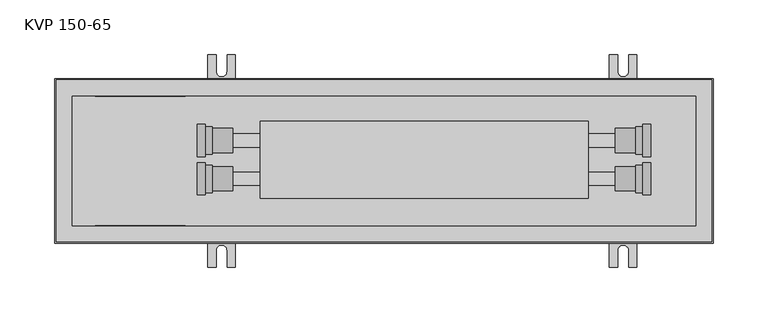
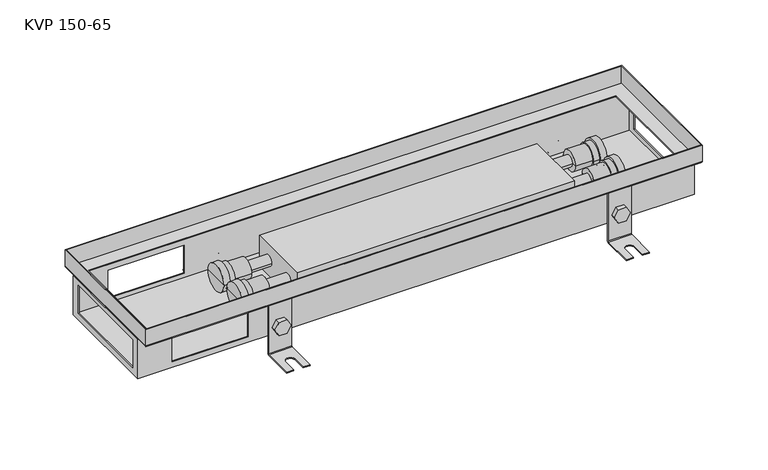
"""IFC4 building model written with IfcOpenShell, lengths in millimetres: proxy geometry, TECHNO_Конвектор встраиваемый_Power_KVP_150_65-85-105 : KVP 150-65."""

from ifc_helpers import new_model, si_unit, point, frame, frame_2d, origin, place, context, project, spatial, polyline, circle_curve, ellipse_curve, trimmed, segment, composite_curve, outline, extrude, faceted_brep, source, transform, mapped, element, save
from ifc_brep_helpers import plane_surface, cylinder_surface, revolved_surface, advanced_brep


def kvp_150_65_a3dba4b2(model_context):
    return source(origin(), model_context, "Body", "SolidModel", [
        extrude(outline(composite_curve([segment(trimmed(circle_curve(frame_2d((-55.5, 518.0)), 7.5), [point((-55.5, 510.5))], [point((-55.5, 525.5))], False, "CARTESIAN"), True, "CONTINUOUS"), segment(trimmed(circle_curve(frame_2d((-55.5, 518.0)), 7.5), [point((-55.5, 525.5))], [point((-55.5, 510.5))], False, "CARTESIAN"), True, "CONTINUOUS")], self_intersect=False)), frame((0.0, 60.2, 0.0), z_axis=(0.0, 1.0, 0.0), x_axis=(0.0, 0.0, 1.0)), (0.0, 0.0, 1.0), 1.5),
        extrude(outline(polyline([(-55.5, 509.339746), (-63.0, 513.669873), (-63.0, 522.330127), (-55.5, 526.660254), (-48.0, 522.330127), (-48.0, 513.669873), (-55.5, 509.339746)])), frame((0.0, 62.9, 0.0), z_axis=(0.0, 1.0, 0.0), x_axis=(0.0, 0.0, 1.0)), (0.0, 0.0, 1.0), 5.1),
        advanced_brep(
        [(530.5, 62.9, -20.5), (530.5, 61.7, -20.5), (530.5, 61.7, -83.5), (530.5, 63.7, -85.5), (530.5, 96.7, -85.5), (530.5, 96.7, -84.3), (530.5, 63.7, -84.3), (530.5, 62.9, -83.5), (505.5, 62.9, -20.5), (505.5, 62.9, -83.5), (505.5, 63.7, -84.3), (505.5, 96.7, -84.3), (505.5, 96.7, -85.5), (505.5, 63.7, -85.5), (505.5, 61.7, -83.5), (505.5, 61.7, -20.5), (523.0, 96.7, -84.3), (523.0, 81.7, -84.3), (513.0, 81.7, -84.3), (513.0, 96.7, -84.3), (513.0, 96.7, -85.5), (523.0, 96.7, -85.5), (513.0, 81.7, -85.5), (523.0, 81.7, -85.5)],
        [
            (0, 1),
            (1, 2),
            (2, 3, circle_curve(frame((530.5, 63.7, -83.5), z_axis=(1.0, 0.0, 0.0), x_axis=(0.0, 1.0, 0.0)), 2.0)),
            (3, 4),
            (4, 5),
            (5, 6),
            (6, 7, circle_curve(frame((530.5, 63.7, -83.5), z_axis=(-1.0, 0.0, 0.0), x_axis=(0.0, 1.0, 0.0)), 0.8)),
            (7, 0),
            (8, 9),
            (9, 10, circle_curve(frame((505.5, 63.7, -83.5), z_axis=(1.0, 0.0, 0.0), x_axis=(0.0, 1.0, 0.0)), 0.8)),
            (10, 11),
            (11, 12),
            (12, 13),
            (13, 14, circle_curve(frame((505.5, 63.7, -83.5), z_axis=(-1.0, 0.0, 0.0), x_axis=(0.0, 1.0, 0.0)), 2.0)),
            (14, 15),
            (15, 8),
            (7, 9),
            (8, 0),
            (6, 10),
            (5, 16),
            (16, 17),
            (17, 18, circle_curve(frame((518.0, 81.7, -84.3), z_axis=(0.0, 0.0, -1.0), x_axis=(1.0, 0.0, 0.0)), 5.0)),
            (18, 19),
            (19, 11),
            (19, 20),
            (20, 12),
            (4, 21),
            (21, 16),
            (3, 13),
            (20, 22),
            (22, 23, circle_curve(frame((518.0, 81.7, -85.5), z_axis=(0.0, 0.0, 1.0), x_axis=(1.0, 0.0, 0.0)), 5.0)),
            (23, 21),
            (2, 14),
            (1, 15),
            (18, 22),
            (23, 17),
        ],
        [
            plane_surface(frame((530.5, 62.9, -20.5), z_axis=(1.0, 0.0, 0.0), x_axis=(0.0, 0.0, -1.0))),
            plane_surface(frame((505.5, 62.9, -20.5), z_axis=(-1.0, 0.0, 0.0), x_axis=(0.0, 0.0, 1.0))),
            plane_surface(frame((530.5, 62.9, -20.5), z_axis=(0.0, 1.0, 0.0), x_axis=(-1.0, 0.0, 0.0))),
            revolved_surface(polyline([(505.5, 64.5, -83.5), (530.5, 64.5, -83.5)]), (505.5, 63.7, -83.5), (-1.0, 0.0, 0.0)),
            plane_surface(frame((530.5, 63.7, -84.3), z_axis=(0.0, 0.0, 1.0), x_axis=(-1.0, 0.0, 0.0))),
            plane_surface(frame((530.5, 96.7, -84.3), z_axis=(0.0, 1.0, 0.0), x_axis=(-1.0, 0.0, 0.0))),
            plane_surface(frame((530.5, 96.7, -85.5), z_axis=(0.0, 0.0, -1.0), x_axis=(-1.0, 0.0, 0.0))),
            cylinder_surface(frame((505.5, 63.7, -83.5), z_axis=(1.0, 0.0, 0.0), x_axis=(0.0, 1.0, 0.0)), 2.0),
            plane_surface(frame((530.5, 61.7, -83.5), z_axis=(0.0, -1.0, 0.0), x_axis=(-1.0, 0.0, 0.0))),
            plane_surface(frame((530.5, 61.7, -20.5), z_axis=(0.0, 0.0, 1.0), x_axis=(-1.0, 0.0, 0.0))),
            plane_surface(frame((513.0, 81.7, -84.3), z_axis=(1.0, 0.0, 0.0), x_axis=(0.0, 0.0, -1.0))),
            plane_surface(frame((523.0, 96.7, -84.3), z_axis=(-1.0, 0.0, 0.0), x_axis=(0.0, 0.0, -1.0))),
            revolved_surface(polyline([(523.0, 81.7, -84.3), (523.0, 81.7, -85.5)]), (518.0, 81.7, -85.5), (0.0, 0.0, 1.0)),
        ],
        [
            (0, [[1, 2, 3, 4, 5, 6, 7, 8]]),
            (1, [[9, 10, 11, 12, 13, 14, 15, 16]]),
            (2, [[17, -9, 18, -8]]),
            (3, [[19, -10, -17, -7]]),
            (4, [[20, 21, 22, 23, 24, -11, -19, -6]]),
            (5, [[-24, 25, 26, -12]]),
            (5, [[27, 28, -20, -5]]),
            (6, [[29, -13, -26, 30, 31, 32, -27, -4]]),
            (7, [[33, -14, -29, -3]]),
            (8, [[34, -15, -33, -2]]),
            (9, [[-18, -16, -34, -1]]),
            (10, [[-30, -25, -23, 35]]),
            (11, [[-21, -28, -32, 36]]),
            (12, [[-22, -36, -31, -35]]),
        ],
    ),
        extrude(outline(composite_curve([segment(trimmed(circle_curve(frame_2d((-55.5, 518.0)), 7.5), [point((-55.5, 510.5))], [point((-55.5, 525.5))], False, "CARTESIAN"), True, "CONTINUOUS"), segment(trimmed(circle_curve(frame_2d((-55.5, 518.0)), 7.5), [point((-55.5, 525.5))], [point((-55.5, 510.5))], False, "CARTESIAN"), True, "CONTINUOUS")], self_intersect=False)), frame((0.0, -61.7, 0.0), z_axis=(0.0, 1.0, 0.0), x_axis=(0.0, 0.0, 1.0)), (0.0, 0.0, 1.0), 1.5),
        extrude(outline(polyline([(-55.5, 509.339746), (-63.0, 513.669873), (-63.0, 522.330127), (-55.5, 526.660254), (-48.0, 522.330127), (-48.0, 513.669873), (-55.5, 509.339746)])), frame((0.0, -68.0, 0.0), z_axis=(0.0, 1.0, 0.0), x_axis=(0.0, 0.0, 1.0)), (0.0, 0.0, 1.0), 5.1),
        advanced_brep(
        [(530.5, -62.9, -20.5), (530.5, -62.9, -83.5), (530.5, -63.7, -84.3), (530.5, -96.7, -84.3), (530.5, -96.7, -85.5), (530.5, -63.7, -85.5), (530.5, -61.7, -83.5), (530.5, -61.7, -20.5), (505.5, -62.9, -20.5), (505.5, -61.7, -20.5), (505.5, -61.7, -83.5), (505.5, -63.7, -85.5), (505.5, -96.7, -85.5), (505.5, -96.7, -84.3), (505.5, -63.7, -84.3), (505.5, -62.9, -83.5), (513.0, -96.7, -84.3), (513.0, -81.7, -84.3), (523.0, -81.7, -84.3), (523.0, -96.7, -84.3), (523.0, -96.7, -85.5), (513.0, -96.7, -85.5), (523.0, -81.7, -85.5), (513.0, -81.7, -85.5)],
        [
            (0, 1),
            (1, 2, circle_curve(frame((530.5, -63.7, -83.5), z_axis=(-1.0, 0.0, 0.0), x_axis=(0.0, -1.0, 0.0)), 0.8)),
            (2, 3),
            (3, 4),
            (4, 5),
            (5, 6, circle_curve(frame((530.5, -63.7, -83.5), z_axis=(1.0, 0.0, 0.0), x_axis=(0.0, -1.0, 0.0)), 2.0)),
            (6, 7),
            (7, 0),
            (8, 9),
            (9, 10),
            (10, 11, circle_curve(frame((505.5, -63.7, -83.5), z_axis=(-1.0, 0.0, 0.0), x_axis=(0.0, -1.0, 0.0)), 2.0)),
            (11, 12),
            (12, 13),
            (13, 14),
            (14, 15, circle_curve(frame((505.5, -63.7, -83.5), z_axis=(1.0, 0.0, 0.0), x_axis=(0.0, -1.0, 0.0)), 0.8)),
            (15, 8),
            (0, 8),
            (15, 1),
            (14, 2),
            (13, 16),
            (16, 17),
            (17, 18, circle_curve(frame((518.0, -81.7, -84.3), z_axis=(0.0, 0.0, -1.0), x_axis=(1.0, 0.0, 0.0)), 5.0)),
            (18, 19),
            (19, 3),
            (19, 20),
            (20, 4),
            (12, 21),
            (21, 16),
            (20, 22),
            (22, 23, circle_curve(frame((518.0, -81.7, -85.5), z_axis=(0.0, 0.0, 1.0), x_axis=(1.0, 0.0, 0.0)), 5.0)),
            (23, 21),
            (11, 5),
            (10, 6),
            (9, 7),
            (23, 17),
            (18, 22),
        ],
        [
            plane_surface(frame((530.5, -62.9, -20.5), z_axis=(1.0, 0.0, 0.0), x_axis=(0.0, 0.0, -1.0))),
            plane_surface(frame((505.5, -62.9, -20.5), z_axis=(-1.0, 0.0, 0.0), x_axis=(0.0, 0.0, 1.0))),
            plane_surface(frame((530.5, -62.9, -20.5), z_axis=(0.0, -1.0, 0.0), x_axis=(-1.0, 0.0, 0.0))),
            revolved_surface(polyline([(505.5, -64.5, -83.5), (530.5, -64.5, -83.5)]), (505.5, -63.7, -83.5), (-1.0, 0.0, 0.0)),
            plane_surface(frame((530.5, -63.7, -84.3), z_axis=(0.0, 0.0, 1.0), x_axis=(-1.0, 0.0, 0.0))),
            plane_surface(frame((530.5, -96.7, -84.3), z_axis=(0.0, -1.0, 0.0), x_axis=(-1.0, 0.0, 0.0))),
            plane_surface(frame((530.5, -96.7, -85.5), z_axis=(0.0, 0.0, -1.0), x_axis=(-1.0, 0.0, 0.0))),
            cylinder_surface(frame((505.5, -63.7, -83.5), z_axis=(1.0, 0.0, 0.0), x_axis=(0.0, -1.0, 0.0)), 2.0),
            plane_surface(frame((530.5, -61.7, -83.5), z_axis=(0.0, 1.0, 0.0), x_axis=(-1.0, 0.0, 0.0))),
            plane_surface(frame((530.5, -61.7, -20.5), z_axis=(0.0, 0.0, 1.0), x_axis=(-1.0, 0.0, 0.0))),
            plane_surface(frame((513.0, -81.7, -84.3), z_axis=(1.0, 0.0, 0.0), x_axis=(0.0, 0.0, -1.0))),
            plane_surface(frame((523.0, -96.7, -84.3), z_axis=(-1.0, 0.0, 0.0), x_axis=(0.0, 0.0, -1.0))),
            revolved_surface(polyline([(523.0, -81.7, -84.3), (523.0, -81.7, -85.5)]), (518.0, -81.7, -85.5), (0.0, 0.0, 1.0)),
        ],
        [
            (0, [[1, 2, 3, 4, 5, 6, 7, 8]]),
            (1, [[9, 10, 11, 12, 13, 14, 15, 16]]),
            (2, [[-1, 17, -16, 18]]),
            (3, [[-2, -18, -15, 19]]),
            (4, [[-3, -19, -14, 20, 21, 22, 23, 24]]),
            (5, [[-4, -24, 25, 26]]),
            (5, [[-13, 27, 28, -20]]),
            (6, [[-5, -26, 29, 30, 31, -27, -12, 32]]),
            (7, [[-6, -32, -11, 33]]),
            (8, [[-7, -33, -10, 34]]),
            (9, [[-8, -34, -9, -17]]),
            (10, [[35, -21, -28, -31]]),
            (11, [[36, -29, -25, -23]]),
            (12, [[-35, -30, -36, -22]]),
        ],
    ),
        extrude(outline(composite_curve([segment(trimmed(circle_curve(frame_2d((-55.5, 152.0)), 7.5), [point((-55.5, 144.5))], [point((-55.5, 159.5))], False, "CARTESIAN"), True, "CONTINUOUS"), segment(trimmed(circle_curve(frame_2d((-55.5, 152.0)), 7.5), [point((-55.5, 159.5))], [point((-55.5, 144.5))], False, "CARTESIAN"), True, "CONTINUOUS")], self_intersect=False)), frame((0.0, 60.2, 0.0), z_axis=(0.0, 1.0, 0.0), x_axis=(0.0, 0.0, 1.0)), (0.0, 0.0, 1.0), 1.5),
        extrude(outline(polyline([(-55.5, 143.339746), (-63.0, 147.669873), (-63.0, 156.330127), (-55.5, 160.660254), (-48.0, 156.330127), (-48.0, 147.669873), (-55.5, 143.339746)])), frame((0.0, 62.9, 0.0), z_axis=(0.0, 1.0, 0.0), x_axis=(0.0, 0.0, 1.0)), (0.0, 0.0, 1.0), 5.1),
        advanced_brep(
        [(164.5, 62.9, -20.5), (164.5, 61.7, -20.5), (164.5, 61.7, -83.5), (164.5, 63.7, -85.5), (164.5, 96.7, -85.5), (164.5, 96.7, -84.3), (164.5, 63.7, -84.3), (164.5, 62.9, -83.5), (139.5, 62.9, -20.5), (139.5, 62.9, -83.5), (139.5, 63.7, -84.3), (139.5, 96.7, -84.3), (139.5, 96.7, -85.5), (139.5, 63.7, -85.5), (139.5, 61.7, -83.5), (139.5, 61.7, -20.5), (157.0, 96.7, -84.3), (157.0, 81.7, -84.3), (147.0, 81.7, -84.3), (147.0, 96.7, -84.3), (147.0, 96.7, -85.5), (157.0, 96.7, -85.5), (147.0, 81.7, -85.5), (157.0, 81.7, -85.5)],
        [
            (0, 1),
            (1, 2),
            (2, 3, circle_curve(frame((164.5, 63.7, -83.5), z_axis=(1.0, 0.0, 0.0), x_axis=(0.0, 1.0, 0.0)), 2.0)),
            (3, 4),
            (4, 5),
            (5, 6),
            (6, 7, circle_curve(frame((164.5, 63.7, -83.5), z_axis=(-1.0, 0.0, 0.0), x_axis=(0.0, 1.0, 0.0)), 0.8)),
            (7, 0),
            (8, 9),
            (9, 10, circle_curve(frame((139.5, 63.7, -83.5), z_axis=(1.0, 0.0, 0.0), x_axis=(0.0, 1.0, 0.0)), 0.8)),
            (10, 11),
            (11, 12),
            (12, 13),
            (13, 14, circle_curve(frame((139.5, 63.7, -83.5), z_axis=(-1.0, 0.0, 0.0), x_axis=(0.0, 1.0, 0.0)), 2.0)),
            (14, 15),
            (15, 8),
            (7, 9),
            (8, 0),
            (6, 10),
            (5, 16),
            (16, 17),
            (17, 18, circle_curve(frame((152.0, 81.7, -84.3), z_axis=(0.0, 0.0, -1.0), x_axis=(1.0, 0.0, 0.0)), 5.0)),
            (18, 19),
            (19, 11),
            (19, 20),
            (20, 12),
            (4, 21),
            (21, 16),
            (3, 13),
            (20, 22),
            (22, 23, circle_curve(frame((152.0, 81.7, -85.5), z_axis=(0.0, 0.0, 1.0), x_axis=(1.0, 0.0, 0.0)), 5.0)),
            (23, 21),
            (2, 14),
            (1, 15),
            (18, 22),
            (23, 17),
        ],
        [
            plane_surface(frame((164.5, 62.9, -20.5), z_axis=(1.0, 0.0, 0.0), x_axis=(0.0, 0.0, -1.0))),
            plane_surface(frame((139.5, 62.9, -20.5), z_axis=(-1.0, 0.0, 0.0), x_axis=(0.0, 0.0, 1.0))),
            plane_surface(frame((164.5, 62.9, -20.5), z_axis=(0.0, 1.0, 0.0), x_axis=(-1.0, 0.0, 0.0))),
            revolved_surface(polyline([(139.5, 64.5, -83.5), (164.5, 64.5, -83.5)]), (139.5, 63.7, -83.5), (-1.0, 0.0, 0.0)),
            plane_surface(frame((164.5, 63.7, -84.3), z_axis=(0.0, 0.0, 1.0), x_axis=(-1.0, 0.0, 0.0))),
            plane_surface(frame((164.5, 96.7, -84.3), z_axis=(0.0, 1.0, 0.0), x_axis=(-1.0, 0.0, 0.0))),
            plane_surface(frame((164.5, 96.7, -85.5), z_axis=(0.0, 0.0, -1.0), x_axis=(-1.0, 0.0, 0.0))),
            cylinder_surface(frame((139.5, 63.7, -83.5), z_axis=(1.0, 0.0, 0.0), x_axis=(0.0, 1.0, 0.0)), 2.0),
            plane_surface(frame((164.5, 61.7, -83.5), z_axis=(0.0, -1.0, 0.0), x_axis=(-1.0, 0.0, 0.0))),
            plane_surface(frame((164.5, 61.7, -20.5), z_axis=(0.0, 0.0, 1.0), x_axis=(-1.0, 0.0, 0.0))),
            plane_surface(frame((147.0, 81.7, -84.3), z_axis=(1.0, 0.0, 0.0), x_axis=(0.0, 0.0, -1.0))),
            plane_surface(frame((157.0, 96.7, -84.3), z_axis=(-1.0, 0.0, 0.0), x_axis=(0.0, 0.0, -1.0))),
            revolved_surface(polyline([(157.0, 81.7, -84.3), (157.0, 81.7, -85.5)]), (152.0, 81.7, -85.5), (0.0, 0.0, 1.0)),
        ],
        [
            (0, [[1, 2, 3, 4, 5, 6, 7, 8]]),
            (1, [[9, 10, 11, 12, 13, 14, 15, 16]]),
            (2, [[17, -9, 18, -8]]),
            (3, [[19, -10, -17, -7]]),
            (4, [[20, 21, 22, 23, 24, -11, -19, -6]]),
            (5, [[-24, 25, 26, -12]]),
            (5, [[27, 28, -20, -5]]),
            (6, [[29, -13, -26, 30, 31, 32, -27, -4]]),
            (7, [[33, -14, -29, -3]]),
            (8, [[34, -15, -33, -2]]),
            (9, [[-18, -16, -34, -1]]),
            (10, [[-30, -25, -23, 35]]),
            (11, [[-21, -28, -32, 36]]),
            (12, [[-22, -36, -31, -35]]),
        ],
    ),
        extrude(outline(composite_curve([segment(trimmed(circle_curve(frame_2d((-55.5, 152.0)), 7.5), [point((-55.5, 144.5))], [point((-55.5, 159.5))], False, "CARTESIAN"), True, "CONTINUOUS"), segment(trimmed(circle_curve(frame_2d((-55.5, 152.0)), 7.5), [point((-55.5, 159.5))], [point((-55.5, 144.5))], False, "CARTESIAN"), True, "CONTINUOUS")], self_intersect=False)), frame((0.0, -61.7, 0.0), z_axis=(0.0, 1.0, 0.0), x_axis=(0.0, 0.0, 1.0)), (0.0, 0.0, 1.0), 1.5),
        extrude(outline(polyline([(-55.5, 143.339746), (-63.0, 147.669873), (-63.0, 156.330127), (-55.5, 160.660254), (-48.0, 156.330127), (-48.0, 147.669873), (-55.5, 143.339746)])), frame((0.0, -68.0, 0.0), z_axis=(0.0, 1.0, 0.0), x_axis=(0.0, 0.0, 1.0)), (0.0, 0.0, 1.0), 5.1),
        advanced_brep(
        [(164.5, -62.9, -20.5), (164.5, -62.9, -83.5), (164.5, -63.7, -84.3), (164.5, -96.7, -84.3), (164.5, -96.7, -85.5), (164.5, -63.7, -85.5), (164.5, -61.7, -83.5), (164.5, -61.7, -20.5), (139.5, -62.9, -20.5), (139.5, -61.7, -20.5), (139.5, -61.7, -83.5), (139.5, -63.7, -85.5), (139.5, -96.7, -85.5), (139.5, -96.7, -84.3), (139.5, -63.7, -84.3), (139.5, -62.9, -83.5), (147.0, -96.7, -84.3), (147.0, -81.7, -84.3), (157.0, -81.7, -84.3), (157.0, -96.7, -84.3), (157.0, -96.7, -85.5), (147.0, -96.7, -85.5), (157.0, -81.7, -85.5), (147.0, -81.7, -85.5)],
        [
            (0, 1),
            (1, 2, circle_curve(frame((164.5, -63.7, -83.5), z_axis=(-1.0, 0.0, 0.0), x_axis=(0.0, -1.0, 0.0)), 0.8)),
            (2, 3),
            (3, 4),
            (4, 5),
            (5, 6, circle_curve(frame((164.5, -63.7, -83.5), z_axis=(1.0, 0.0, 0.0), x_axis=(0.0, -1.0, 0.0)), 2.0)),
            (6, 7),
            (7, 0),
            (8, 9),
            (9, 10),
            (10, 11, circle_curve(frame((139.5, -63.7, -83.5), z_axis=(-1.0, 0.0, 0.0), x_axis=(0.0, -1.0, 0.0)), 2.0)),
            (11, 12),
            (12, 13),
            (13, 14),
            (14, 15, circle_curve(frame((139.5, -63.7, -83.5), z_axis=(1.0, 0.0, 0.0), x_axis=(0.0, -1.0, 0.0)), 0.8)),
            (15, 8),
            (0, 8),
            (15, 1),
            (14, 2),
            (13, 16),
            (16, 17),
            (17, 18, circle_curve(frame((152.0, -81.7, -84.3), z_axis=(0.0, 0.0, -1.0), x_axis=(1.0, 0.0, 0.0)), 5.0)),
            (18, 19),
            (19, 3),
            (19, 20),
            (20, 4),
            (12, 21),
            (21, 16),
            (20, 22),
            (22, 23, circle_curve(frame((152.0, -81.7, -85.5), z_axis=(0.0, 0.0, 1.0), x_axis=(1.0, 0.0, 0.0)), 5.0)),
            (23, 21),
            (11, 5),
            (10, 6),
            (9, 7),
            (23, 17),
            (18, 22),
        ],
        [
            plane_surface(frame((164.5, -62.9, -20.5), z_axis=(1.0, 0.0, 0.0), x_axis=(0.0, 0.0, -1.0))),
            plane_surface(frame((139.5, -62.9, -20.5), z_axis=(-1.0, 0.0, 0.0), x_axis=(0.0, 0.0, 1.0))),
            plane_surface(frame((164.5, -62.9, -20.5), z_axis=(0.0, -1.0, 0.0), x_axis=(-1.0, 0.0, 0.0))),
            revolved_surface(polyline([(139.5, -64.5, -83.5), (164.5, -64.5, -83.5)]), (139.5, -63.7, -83.5), (-1.0, 0.0, 0.0)),
            plane_surface(frame((164.5, -63.7, -84.3), z_axis=(0.0, 0.0, 1.0), x_axis=(-1.0, 0.0, 0.0))),
            plane_surface(frame((164.5, -96.7, -84.3), z_axis=(0.0, -1.0, 0.0), x_axis=(-1.0, 0.0, 0.0))),
            plane_surface(frame((164.5, -96.7, -85.5), z_axis=(0.0, 0.0, -1.0), x_axis=(-1.0, 0.0, 0.0))),
            cylinder_surface(frame((139.5, -63.7, -83.5), z_axis=(1.0, 0.0, 0.0), x_axis=(0.0, -1.0, 0.0)), 2.0),
            plane_surface(frame((164.5, -61.7, -83.5), z_axis=(0.0, 1.0, 0.0), x_axis=(-1.0, 0.0, 0.0))),
            plane_surface(frame((164.5, -61.7, -20.5), z_axis=(0.0, 0.0, 1.0), x_axis=(-1.0, 0.0, 0.0))),
            plane_surface(frame((147.0, -81.7, -84.3), z_axis=(1.0, 0.0, 0.0), x_axis=(0.0, 0.0, -1.0))),
            plane_surface(frame((157.0, -96.7, -84.3), z_axis=(-1.0, 0.0, 0.0), x_axis=(0.0, 0.0, -1.0))),
            revolved_surface(polyline([(157.0, -81.7, -84.3), (157.0, -81.7, -85.5)]), (152.0, -81.7, -85.5), (0.0, 0.0, 1.0)),
        ],
        [
            (0, [[1, 2, 3, 4, 5, 6, 7, 8]]),
            (1, [[9, 10, 11, 12, 13, 14, 15, 16]]),
            (2, [[-1, 17, -16, 18]]),
            (3, [[-2, -18, -15, 19]]),
            (4, [[-3, -19, -14, 20, 21, 22, 23, 24]]),
            (5, [[-4, -24, 25, 26]]),
            (5, [[-13, 27, 28, -20]]),
            (6, [[-5, -26, 29, 30, 31, -27, -12, 32]]),
            (7, [[-6, -32, -11, 33]]),
            (8, [[-7, -33, -10, 34]]),
            (9, [[-8, -34, -9, -17]]),
            (10, [[35, -21, -28, -31]]),
            (11, [[36, -29, -25, -23]]),
            (12, [[-35, -30, -36, -22]]),
        ],
    ),
        extrude(outline(composite_curve([segment(trimmed(circle_curve(frame_2d((-16.3, -43.3)), 6.0), [point((-22.3, -43.3))], [point((-10.3, -43.3))], False, "CARTESIAN"), True, "CONTINUOUS"), segment(trimmed(circle_curve(frame_2d((-16.3, -43.3)), 6.0), [point((-10.3, -43.3))], [point((-22.3, -43.3))], False, "CARTESIAN"), True, "CONTINUOUS")], self_intersect=False)), frame((162.0, 0.0, 0.0), z_axis=(1.0, 0.0, 0.0), x_axis=(0.0, 1.0, 0.0)), (0.0, 0.0, 1.0), 349.0),
        advanced_brep(
        [(162.0, 7.7, -43.3), (162.0, 29.7, -43.3), (162.0, 18.7, -43.3), (143.5, 7.7, -43.3), (143.5, 29.7, -43.3), (143.5, 6.2, -43.3), (143.5, 31.2, -43.3), (137.0, 6.2, -43.3), (137.0, 31.2, -43.3), (137.0, 4.0, -43.3), (137.0, 33.4, -43.3), (130.0, 4.0, -43.3), (130.0, 33.4, -43.3), (130.0, 18.7, -43.3)],
        [
            (0, 1, circle_curve(frame((162.0, 18.7, -43.3), z_axis=(1.0, 0.0, 0.0), x_axis=(0.0, 1.0, 0.0)), 11.0)),
            (1, 2),
            (2, 0),
            (1, 0, circle_curve(frame((162.0, 18.7, -43.3), z_axis=(1.0, 0.0, 0.0), x_axis=(0.0, 1.0, 0.0)), 11.0)),
            (3, 4, circle_curve(frame((143.5, 18.7, -43.3), z_axis=(1.0, 0.0, 0.0), x_axis=(0.0, 1.0, 0.0)), 11.0)),
            (4, 1),
            (0, 3),
            (4, 3, circle_curve(frame((143.5, 18.7, -43.3), z_axis=(1.0, 0.0, 0.0), x_axis=(0.0, 1.0, 0.0)), 11.0)),
            (5, 6, circle_curve(frame((143.5, 18.7, -43.3), z_axis=(1.0, 0.0, 0.0), x_axis=(0.0, 1.0, 0.0)), 12.5)),
            (6, 4),
            (3, 5),
            (6, 5, circle_curve(frame((143.5, 18.7, -43.3), z_axis=(1.0, 0.0, 0.0), x_axis=(0.0, 1.0, 0.0)), 12.5)),
            (7, 8, circle_curve(frame((137.0, 18.7, -43.3), z_axis=(1.0, 0.0, 0.0), x_axis=(0.0, 1.0, 0.0)), 12.5)),
            (8, 6),
            (5, 7),
            (8, 7, circle_curve(frame((137.0, 18.7, -43.3), z_axis=(1.0, 0.0, 0.0), x_axis=(0.0, 1.0, 0.0)), 12.5)),
            (9, 10, circle_curve(frame((137.0, 18.7, -43.3), z_axis=(1.0, 0.0, 0.0), x_axis=(0.0, 1.0, 0.0)), 14.7)),
            (10, 8),
            (7, 9),
            (10, 9, circle_curve(frame((137.0, 18.7, -43.3), z_axis=(1.0, 0.0, 0.0), x_axis=(0.0, 1.0, 0.0)), 14.7)),
            (11, 12, circle_curve(frame((130.0, 18.7, -43.3), z_axis=(1.0, 0.0, 0.0), x_axis=(0.0, 1.0, 0.0)), 14.7)),
            (12, 10),
            (9, 11),
            (12, 11, circle_curve(frame((130.0, 18.7, -43.3), z_axis=(1.0, 0.0, 0.0), x_axis=(0.0, 1.0, 0.0)), 14.7)),
            (13, 12),
            (11, 13),
        ],
        [
            plane_surface(frame((162.0, 18.7, -43.3), z_axis=(1.0, 0.0, 0.0), x_axis=(0.0, 1.0, 0.0))),
            cylinder_surface(frame((120.0, 18.7, -43.3), z_axis=(-1.0, 0.0, 0.0), x_axis=(0.0, 1.0, 0.0)), 11.0),
            plane_surface(frame((143.5, 18.7, -43.3), z_axis=(1.0, 0.0, 0.0), x_axis=(0.0, 1.0, 0.0))),
            cylinder_surface(frame((120.0, 18.7, -43.3), z_axis=(-1.0, 0.0, 0.0), x_axis=(0.0, 1.0, 0.0)), 12.5),
            plane_surface(frame((137.0, 18.7, -43.3), z_axis=(1.0, 0.0, 0.0), x_axis=(0.0, 1.0, 0.0))),
            cylinder_surface(frame((120.0, 18.7, -43.3), z_axis=(-1.0, 0.0, 0.0), x_axis=(0.0, 1.0, 0.0)), 14.7),
            plane_surface(frame((130.0, 18.7, -43.3), z_axis=(-1.0, 0.0, 0.0), x_axis=(0.0, 1.0, 0.0))),
        ],
        [
            (0, [[1, 2, 3]]),
            (0, [[4, -3, -2]]),
            (1, [[5, 6, -1, 7]]),
            (1, [[8, -7, -4, -6]]),
            (2, [[9, 10, -5, 11]]),
            (2, [[12, -11, -8, -10]]),
            (3, [[13, 14, -9, 15]]),
            (3, [[16, -15, -12, -14]]),
            (4, [[17, 18, -13, 19]]),
            (4, [[20, -19, -16, -18]]),
            (5, [[21, 22, -17, 23]]),
            (5, [[24, -23, -20, -22]]),
            (6, [[25, -21, 26]]),
            (6, [[-26, -24, -25]]),
        ],
    ),
        advanced_brep(
        [(162.0, -27.3, -43.3), (162.0, -5.3, -43.3), (162.0, -16.3, -43.3), (143.5, -27.3, -43.3), (143.5, -5.3, -43.3), (143.5, -28.8, -43.3), (143.5, -3.8, -43.3), (137.0, -28.8, -43.3), (137.0, -3.8, -43.3), (137.0, -31.0, -43.3), (137.0, -1.6, -43.3), (130.0, -31.0, -43.3), (130.0, -1.6, -43.3), (130.0, -16.3, -43.3)],
        [
            (0, 1, circle_curve(frame((162.0, -16.3, -43.3), z_axis=(1.0, 0.0, 0.0), x_axis=(0.0, 1.0, 0.0)), 11.0)),
            (1, 2),
            (2, 0),
            (1, 0, circle_curve(frame((162.0, -16.3, -43.3), z_axis=(1.0, 0.0, 0.0), x_axis=(0.0, 1.0, 0.0)), 11.0)),
            (3, 4, circle_curve(frame((143.5, -16.3, -43.3), z_axis=(1.0, 0.0, 0.0), x_axis=(0.0, 1.0, 0.0)), 11.0)),
            (4, 1),
            (0, 3),
            (4, 3, circle_curve(frame((143.5, -16.3, -43.3), z_axis=(1.0, 0.0, 0.0), x_axis=(0.0, 1.0, 0.0)), 11.0)),
            (5, 6, circle_curve(frame((143.5, -16.3, -43.3), z_axis=(1.0, 0.0, 0.0), x_axis=(0.0, 1.0, 0.0)), 12.5)),
            (6, 4),
            (3, 5),
            (6, 5, circle_curve(frame((143.5, -16.3, -43.3), z_axis=(1.0, 0.0, 0.0), x_axis=(0.0, 1.0, 0.0)), 12.5)),
            (7, 8, circle_curve(frame((137.0, -16.3, -43.3), z_axis=(1.0, 0.0, 0.0), x_axis=(0.0, 1.0, 0.0)), 12.5)),
            (8, 6),
            (5, 7),
            (8, 7, circle_curve(frame((137.0, -16.3, -43.3), z_axis=(1.0, 0.0, 0.0), x_axis=(0.0, 1.0, 0.0)), 12.5)),
            (9, 10, circle_curve(frame((137.0, -16.3, -43.3), z_axis=(1.0, 0.0, 0.0), x_axis=(0.0, 1.0, 0.0)), 14.7)),
            (10, 8),
            (7, 9),
            (10, 9, circle_curve(frame((137.0, -16.3, -43.3), z_axis=(1.0, 0.0, 0.0), x_axis=(0.0, 1.0, 0.0)), 14.7)),
            (11, 12, circle_curve(frame((130.0, -16.3, -43.3), z_axis=(1.0, 0.0, 0.0), x_axis=(0.0, 1.0, 0.0)), 14.7)),
            (12, 10),
            (9, 11),
            (12, 11, circle_curve(frame((130.0, -16.3, -43.3), z_axis=(1.0, 0.0, 0.0), x_axis=(0.0, 1.0, 0.0)), 14.7)),
            (13, 12),
            (11, 13),
        ],
        [
            plane_surface(frame((162.0, -16.3, -43.3), z_axis=(1.0, 0.0, 0.0), x_axis=(0.0, 1.0, 0.0))),
            cylinder_surface(frame((120.0, -16.3, -43.3), z_axis=(-1.0, 0.0, 0.0), x_axis=(0.0, 1.0, 0.0)), 11.0),
            plane_surface(frame((143.5, -16.3, -43.3), z_axis=(1.0, 0.0, 0.0), x_axis=(0.0, 1.0, 0.0))),
            cylinder_surface(frame((120.0, -16.3, -43.3), z_axis=(-1.0, 0.0, 0.0), x_axis=(0.0, 1.0, 0.0)), 12.5),
            plane_surface(frame((137.0, -16.3, -43.3), z_axis=(1.0, 0.0, 0.0), x_axis=(0.0, 1.0, 0.0))),
            cylinder_surface(frame((120.0, -16.3, -43.3), z_axis=(-1.0, 0.0, 0.0), x_axis=(0.0, 1.0, 0.0)), 14.7),
            plane_surface(frame((130.0, -16.3, -43.3), z_axis=(-1.0, 0.0, 0.0), x_axis=(0.0, 1.0, 0.0))),
        ],
        [
            (0, [[1, 2, 3]]),
            (0, [[4, -3, -2]]),
            (1, [[5, 6, -1, 7]]),
            (1, [[8, -7, -4, -6]]),
            (2, [[9, 10, -5, 11]]),
            (2, [[12, -11, -8, -10]]),
            (3, [[13, 14, -9, 15]]),
            (3, [[16, -15, -12, -14]]),
            (4, [[17, 18, -13, 19]]),
            (4, [[20, -19, -16, -18]]),
            (5, [[21, 22, -17, 23]]),
            (5, [[24, -23, -20, -22]]),
            (6, [[25, -21, 26]]),
            (6, [[-26, -24, -25]]),
        ],
    ),
        extrude(outline(polyline([(486.0, 36.2), (486.0, -33.8), (187.0, -33.8), (187.0, 36.2), (486.0, 36.2)])), frame((0.0, 0.0, -60.8), z_axis=(0.0, 0.0, 1.0), x_axis=(1.0, 0.0, 0.0)), (0.0, 0.0, 1.0), 35.0),
        advanced_brep(
        [(511.0, 18.7, -43.3), (511.0, 29.7, -43.3), (511.0, 7.7, -43.3), (529.5, 29.7, -43.3), (529.5, 7.7, -43.3), (529.5, 31.2, -43.3), (529.5, 6.2, -43.3), (536.0, 31.2, -43.3), (536.0, 6.2, -43.3), (536.0, 33.4, -43.3), (536.0, 4.0, -43.3), (543.0, 33.4, -43.3), (543.0, 4.0, -43.3), (543.0, 18.7, -43.3)],
        [
            (0, 1),
            (1, 2, circle_curve(frame((511.0, 18.7, -43.3), z_axis=(-1.0, 0.0, 0.0), x_axis=(0.0, 1.0, 0.0)), 11.0)),
            (2, 0),
            (2, 1, circle_curve(frame((511.0, 18.7, -43.3), z_axis=(-1.0, 0.0, 0.0), x_axis=(0.0, 1.0, 0.0)), 11.0)),
            (1, 3),
            (3, 4, circle_curve(frame((529.5, 18.7, -43.3), z_axis=(-1.0, 0.0, 0.0), x_axis=(0.0, 1.0, 0.0)), 11.0)),
            (4, 2),
            (4, 3, circle_curve(frame((529.5, 18.7, -43.3), z_axis=(-1.0, 0.0, 0.0), x_axis=(0.0, 1.0, 0.0)), 11.0)),
            (3, 5),
            (5, 6, circle_curve(frame((529.5, 18.7, -43.3), z_axis=(-1.0, 0.0, 0.0), x_axis=(0.0, 1.0, 0.0)), 12.5)),
            (6, 4),
            (6, 5, circle_curve(frame((529.5, 18.7, -43.3), z_axis=(-1.0, 0.0, 0.0), x_axis=(0.0, 1.0, 0.0)), 12.5)),
            (5, 7),
            (7, 8, circle_curve(frame((536.0, 18.7, -43.3), z_axis=(-1.0, 0.0, 0.0), x_axis=(0.0, 1.0, 0.0)), 12.5)),
            (8, 6),
            (8, 7, circle_curve(frame((536.0, 18.7, -43.3), z_axis=(-1.0, 0.0, 0.0), x_axis=(0.0, 1.0, 0.0)), 12.5)),
            (7, 9),
            (9, 10, circle_curve(frame((536.0, 18.7, -43.3), z_axis=(-1.0, 0.0, 0.0), x_axis=(0.0, 1.0, 0.0)), 14.7)),
            (10, 8),
            (10, 9, circle_curve(frame((536.0, 18.7, -43.3), z_axis=(-1.0, 0.0, 0.0), x_axis=(0.0, 1.0, 0.0)), 14.7)),
            (9, 11),
            (11, 12, circle_curve(frame((543.0, 18.7, -43.3), z_axis=(-1.0, 0.0, 0.0), x_axis=(0.0, 1.0, 0.0)), 14.7)),
            (12, 10),
            (12, 11, circle_curve(frame((543.0, 18.7, -43.3), z_axis=(-1.0, 0.0, 0.0), x_axis=(0.0, 1.0, 0.0)), 14.7)),
            (11, 13),
            (13, 12),
        ],
        [
            plane_surface(frame((511.0, 18.7, -43.3), z_axis=(-1.0, 0.0, 0.0), x_axis=(0.0, 1.0, 0.0))),
            cylinder_surface(frame((36.0, 18.7, -43.3), z_axis=(-1.0, 0.0, 0.0), x_axis=(0.0, 1.0, 0.0)), 11.0),
            plane_surface(frame((529.5, 18.7, -43.3), z_axis=(-1.0, 0.0, 0.0), x_axis=(0.0, 1.0, 0.0))),
            cylinder_surface(frame((36.0, 18.7, -43.3), z_axis=(-1.0, 0.0, 0.0), x_axis=(0.0, 1.0, 0.0)), 12.5),
            plane_surface(frame((536.0, 18.7, -43.3), z_axis=(-1.0, 0.0, 0.0), x_axis=(0.0, 1.0, 0.0))),
            cylinder_surface(frame((36.0, 18.7, -43.3), z_axis=(-1.0, 0.0, 0.0), x_axis=(0.0, 1.0, 0.0)), 14.7),
            plane_surface(frame((543.0, 18.7, -43.3), z_axis=(1.0, 0.0, 0.0), x_axis=(0.0, 1.0, 0.0))),
        ],
        [
            (0, [[1, 2, 3]]),
            (0, [[-3, 4, -1]]),
            (1, [[-2, 5, 6, 7]]),
            (1, [[-4, -7, 8, -5]]),
            (2, [[-6, 9, 10, 11]]),
            (2, [[-8, -11, 12, -9]]),
            (3, [[-10, 13, 14, 15]]),
            (3, [[-12, -15, 16, -13]]),
            (4, [[-14, 17, 18, 19]]),
            (4, [[-16, -19, 20, -17]]),
            (5, [[-18, 21, 22, 23]]),
            (5, [[-20, -23, 24, -21]]),
            (6, [[-22, 25, 26]]),
            (6, [[-24, -26, -25]]),
        ],
    ),
        advanced_brep(
        [(511.0, -16.3, -43.3), (511.0, -5.3, -43.3), (511.0, -27.3, -43.3), (529.5, -5.3, -43.3), (529.5, -27.3, -43.3), (529.5, -3.8, -43.3), (529.5, -28.8, -43.3), (536.0, -3.8, -43.3), (536.0, -28.8, -43.3), (536.0, -1.6, -43.3), (536.0, -31.0, -43.3), (543.0, -1.6, -43.3), (543.0, -31.0, -43.3), (543.0, -16.3, -43.3)],
        [
            (0, 1),
            (1, 2, circle_curve(frame((511.0, -16.3, -43.3), z_axis=(-1.0, 0.0, 0.0), x_axis=(0.0, 1.0, 0.0)), 11.0)),
            (2, 0),
            (2, 1, circle_curve(frame((511.0, -16.3, -43.3), z_axis=(-1.0, 0.0, 0.0), x_axis=(0.0, 1.0, 0.0)), 11.0)),
            (1, 3),
            (3, 4, circle_curve(frame((529.5, -16.3, -43.3), z_axis=(-1.0, 0.0, 0.0), x_axis=(0.0, 1.0, 0.0)), 11.0)),
            (4, 2),
            (4, 3, circle_curve(frame((529.5, -16.3, -43.3), z_axis=(-1.0, 0.0, 0.0), x_axis=(0.0, 1.0, 0.0)), 11.0)),
            (3, 5),
            (5, 6, circle_curve(frame((529.5, -16.3, -43.3), z_axis=(-1.0, 0.0, 0.0), x_axis=(0.0, 1.0, 0.0)), 12.5)),
            (6, 4),
            (6, 5, circle_curve(frame((529.5, -16.3, -43.3), z_axis=(-1.0, 0.0, 0.0), x_axis=(0.0, 1.0, 0.0)), 12.5)),
            (5, 7),
            (7, 8, circle_curve(frame((536.0, -16.3, -43.3), z_axis=(-1.0, 0.0, 0.0), x_axis=(0.0, 1.0, 0.0)), 12.5)),
            (8, 6),
            (8, 7, circle_curve(frame((536.0, -16.3, -43.3), z_axis=(-1.0, 0.0, 0.0), x_axis=(0.0, 1.0, 0.0)), 12.5)),
            (7, 9),
            (9, 10, circle_curve(frame((536.0, -16.3, -43.3), z_axis=(-1.0, 0.0, 0.0), x_axis=(0.0, 1.0, 0.0)), 14.7)),
            (10, 8),
            (10, 9, circle_curve(frame((536.0, -16.3, -43.3), z_axis=(-1.0, 0.0, 0.0), x_axis=(0.0, 1.0, 0.0)), 14.7)),
            (9, 11),
            (11, 12, circle_curve(frame((543.0, -16.3, -43.3), z_axis=(-1.0, 0.0, 0.0), x_axis=(0.0, 1.0, 0.0)), 14.7)),
            (12, 10),
            (12, 11, circle_curve(frame((543.0, -16.3, -43.3), z_axis=(-1.0, 0.0, 0.0), x_axis=(0.0, 1.0, 0.0)), 14.7)),
            (11, 13),
            (13, 12),
        ],
        [
            plane_surface(frame((511.0, -16.3, -43.3), z_axis=(-1.0, 0.0, 0.0), x_axis=(0.0, 1.0, 0.0))),
            cylinder_surface(frame((36.0, -16.3, -43.3), z_axis=(-1.0, 0.0, 0.0), x_axis=(0.0, 1.0, 0.0)), 11.0),
            plane_surface(frame((529.5, -16.3, -43.3), z_axis=(-1.0, 0.0, 0.0), x_axis=(0.0, 1.0, 0.0))),
            cylinder_surface(frame((36.0, -16.3, -43.3), z_axis=(-1.0, 0.0, 0.0), x_axis=(0.0, 1.0, 0.0)), 12.5),
            plane_surface(frame((536.0, -16.3, -43.3), z_axis=(-1.0, 0.0, 0.0), x_axis=(0.0, 1.0, 0.0))),
            cylinder_surface(frame((36.0, -16.3, -43.3), z_axis=(-1.0, 0.0, 0.0), x_axis=(0.0, 1.0, 0.0)), 14.7),
            plane_surface(frame((543.0, -16.3, -43.3), z_axis=(1.0, 0.0, 0.0), x_axis=(0.0, 1.0, 0.0))),
        ],
        [
            (0, [[1, 2, 3]]),
            (0, [[-3, 4, -1]]),
            (1, [[-2, 5, 6, 7]]),
            (1, [[-4, -7, 8, -5]]),
            (2, [[-6, 9, 10, 11]]),
            (2, [[-8, -11, 12, -9]]),
            (3, [[-10, 13, 14, 15]]),
            (3, [[-12, -15, 16, -13]]),
            (4, [[-14, 17, 18, 19]]),
            (4, [[-16, -19, 20, -17]]),
            (5, [[-18, 21, 22, 23]]),
            (5, [[-20, -23, 24, -21]]),
            (6, [[-22, 25, 26]]),
            (6, [[-24, -26, -25]]),
        ],
    ),
        extrude(outline(composite_curve([segment(trimmed(circle_curve(frame_2d((18.7, -43.3)), 6.0), [point((12.7, -43.3))], [point((24.7, -43.3))], False, "CARTESIAN"), True, "CONTINUOUS"), segment(trimmed(circle_curve(frame_2d((18.7, -43.3)), 6.0), [point((24.7, -43.3))], [point((12.7, -43.3))], False, "CARTESIAN"), True, "CONTINUOUS")], self_intersect=False)), frame((162.0, 0.0, 0.0), z_axis=(1.0, 0.0, 0.0), x_axis=(0.0, 1.0, 0.0)), (0.0, 0.0, 1.0), 349.0),
        faceted_brep([(598.8, -59.0, -63.8), (598.8, 59.0, -63.8), (1.2, 59.0, -63.8), (1.2, -59.0, -63.8), (0.0, -60.2, -65.0), (0.0, 60.2, -65.0), (600.0, 60.2, -65.0), (600.0, -60.2, -65.0), (600.0, -60.2, -20.5), (0.0, -60.2, -20.5), (37.0, -60.2, -26.8), (119.0, -60.2, -26.8), (119.0, -60.2, -58.8), (37.0, -60.2, -58.8), (600.0, 60.2, -20.5), (600.0, 51.0, -26.0), (600.0, 51.0, -58.0), (600.0, -51.0, -58.0), (600.0, -51.0, -26.0), (0.0, 60.2, -20.5), (119.0, 60.2, -26.8), (37.0, 60.2, -26.8), (37.0, 60.2, -58.8), (119.0, 60.2, -58.8), (0.0, 51.0, -58.0), (0.0, 51.0, -26.0), (0.0, -51.0, -26.0), (0.0, -51.0, -58.0), (598.8, -59.0, -20.5), (598.8, 59.0, -20.5), (598.8, 51.0, -58.0), (598.8, 51.0, -26.0), (598.8, -51.0, -26.0), (598.8, -51.0, -58.0), (1.2, -59.0, -20.5), (119.0, -59.0, -26.8), (37.0, -59.0, -26.8), (37.0, -59.0, -58.8), (119.0, -59.0, -58.8), (1.2, 59.0, -20.5), (1.2, 51.0, -26.0), (1.2, 51.0, -58.0), (1.2, -51.0, -58.0), (1.2, -51.0, -26.0), (37.0, 59.0, -26.8), (119.0, 59.0, -26.8), (119.0, 59.0, -58.8), (37.0, 59.0, -58.8)], [[[0, 1, 2, 3]], [[4, 5, 6, 7]], [[4, 7, 8, 9], [10, 11, 12, 13]], [[7, 6, 14, 8], [15, 16, 17, 18]], [[6, 5, 19, 14], [20, 21, 22, 23]], [[5, 4, 9, 19], [24, 25, 26, 27]], [[28, 29, 1, 0], [30, 31, 32, 33]], [[34, 28, 0, 3], [35, 36, 37, 38]], [[39, 34, 3, 2], [40, 41, 42, 43]], [[29, 39, 2, 1], [44, 45, 46, 47]], [[8, 14, 19, 9], [29, 28, 34, 39]], [[35, 11, 10, 36]], [[20, 45, 44, 21]], [[36, 10, 13, 37]], [[21, 44, 47, 22]], [[37, 13, 12, 38]], [[22, 47, 46, 23]], [[11, 35, 38, 12]], [[45, 20, 23, 46]], [[15, 31, 30, 16]], [[31, 15, 18, 32]], [[32, 18, 17, 33]], [[16, 30, 33, 17]], [[24, 41, 40, 25]], [[25, 40, 43, 26]], [[26, 43, 42, 27]], [[41, 24, 27, 42]]]),
        advanced_brep(
        [(584.0, 59.0, -19.3), (584.0, 59.0, -20.5), (584.0, -59.0, -20.5), (584.0, -59.0, -19.3), (598.8, 73.8, 0.0), (598.8, 73.8, -19.3), (598.8, -73.8, -19.3), (598.8, -73.8, 0.0), (600.0, 75.0, -18.5), (600.0, 75.0, 0.0), (600.0, -75.0, 0.0), (600.0, -75.0, -18.5), (16.0, -59.0, -20.5), (16.0, -59.0, -19.3), (1.2, -73.8, -19.3), (1.2, -73.8, 0.0), (0.0, -75.0, 0.0), (0.0, -75.0, -18.5), (16.0, 59.0, -20.5), (16.0, 59.0, -19.3), (1.2, 73.8, -19.3), (1.2, 73.8, 0.0), (0.0, 75.0, 0.0), (0.0, 75.0, -18.5), (598.0, -73.0, -20.5), (2.0, -73.0, -20.5), (2.0, 73.0, -20.5), (598.0, 73.0, -20.5)],
        [
            (0, 1),
            (1, 2),
            (2, 3),
            (3, 0),
            (4, 5),
            (5, 6),
            (6, 7),
            (7, 4),
            (8, 9),
            (9, 10),
            (10, 11),
            (11, 8),
            (2, 12),
            (12, 13),
            (13, 3),
            (6, 14),
            (14, 15),
            (15, 7),
            (10, 16),
            (16, 17),
            (17, 11),
            (12, 18),
            (18, 19),
            (19, 13),
            (14, 20),
            (20, 21),
            (21, 15),
            (16, 22),
            (22, 23),
            (23, 17),
            (24, 25),
            (25, 26),
            (26, 27),
            (27, 24),
            (1, 18),
            (0, 19),
            (5, 20),
            (4, 21),
            (9, 22),
            (8, 23),
            (27, 8, ellipse_curve(frame((598.0, 73.0, -18.5), z_axis=(0.7071067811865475, -0.7071067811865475, 0.0), x_axis=(0.7071067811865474, 0.7071067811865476, 0.0)), 2.8284271, 2.0)),
            (11, 24, ellipse_curve(frame((598.0, -73.0, -18.5), z_axis=(0.7071067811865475, 0.7071067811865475, 0.0), x_axis=(-0.7071067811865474, 0.7071067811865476, 0.0)), 2.8284271, 2.0)),
            (17, 25, ellipse_curve(frame((2.0, -73.0, -18.5), z_axis=(0.7071067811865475, -0.7071067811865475, 0.0), x_axis=(0.7071067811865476, 0.7071067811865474, 0.0)), 2.8284271, 2.0)),
            (23, 26, ellipse_curve(frame((2.0, 73.0, -18.5), z_axis=(-0.7071067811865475, -0.7071067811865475, 0.0), x_axis=(0.7071067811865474, -0.7071067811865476, 0.0)), 2.8284271, 2.0)),
        ],
        [
            plane_surface(frame((584.0, 59.0, -20.5), z_axis=(-1.0, 0.0, 0.0), x_axis=(0.0, -1.0, 0.0))),
            plane_surface(frame((598.8, 73.8, -19.3), z_axis=(-1.0, 0.0, 0.0), x_axis=(0.0, -1.0, 0.0))),
            plane_surface(frame((600.0, 75.0, 0.0), z_axis=(1.0, 0.0, 0.0), x_axis=(0.0, -1.0, 0.0))),
            plane_surface(frame((584.0, -59.0, -20.5), z_axis=(0.0, 1.0, 0.0), x_axis=(-1.0, 0.0, 0.0))),
            plane_surface(frame((598.8, -73.8, -19.3), z_axis=(0.0, 1.0, 0.0), x_axis=(-1.0, 0.0, 0.0))),
            plane_surface(frame((600.0, -75.0, 0.0), z_axis=(0.0, -1.0, 0.0), x_axis=(-1.0, 0.0, 0.0))),
            plane_surface(frame((16.0, -59.0, -20.5), z_axis=(1.0, 0.0, 0.0), x_axis=(0.0, 1.0, 0.0))),
            plane_surface(frame((1.2, -73.8, -19.3), z_axis=(1.0, 0.0, 0.0), x_axis=(0.0, 1.0, 0.0))),
            plane_surface(frame((0.0, -75.0, 0.0), z_axis=(-1.0, 0.0, 0.0), x_axis=(0.0, 1.0, 0.0))),
            plane_surface(frame((2.0, 73.0, -20.5), z_axis=(0.0, 0.0, -1.0), x_axis=(1.0, 0.0, 0.0))),
            plane_surface(frame((16.0, 59.0, -20.5), z_axis=(0.0, -1.0, 0.0), x_axis=(1.0, 0.0, 0.0))),
            plane_surface(frame((16.0, 59.0, -19.3), z_axis=(0.0, 0.0, 1.0), x_axis=(1.0, 0.0, 0.0))),
            plane_surface(frame((1.2, 73.8, -19.3), z_axis=(0.0, -1.0, 0.0), x_axis=(1.0, 0.0, 0.0))),
            plane_surface(frame((1.2, 73.8, 0.0), z_axis=(0.0, 0.0, 1.0), x_axis=(1.0, 0.0, 0.0))),
            plane_surface(frame((0.0, 75.0, 0.0), z_axis=(0.0, 1.0, 0.0), x_axis=(1.0, 0.0, 0.0))),
            cylinder_surface(frame((598.0, 75.0, -18.5), z_axis=(0.0, 1.0, 0.0), x_axis=(1.0, 0.0, 0.0)), 2.0),
            cylinder_surface(frame((600.0, -73.0, -18.5), z_axis=(1.0, 0.0, 0.0), x_axis=(0.0, -1.0, 0.0)), 2.0),
            cylinder_surface(frame((2.0, -75.0, -18.5), z_axis=(0.0, -1.0, 0.0), x_axis=(-1.0, 0.0, 0.0)), 2.0),
            cylinder_surface(frame((0.0, 73.0, -18.5), z_axis=(-1.0, 0.0, 0.0), x_axis=(0.0, 1.0, 0.0)), 2.0),
        ],
        [
            (0, [[1, 2, 3, 4]]),
            (1, [[5, 6, 7, 8]]),
            (2, [[9, 10, 11, 12]]),
            (3, [[-3, 13, 14, 15]]),
            (4, [[-7, 16, 17, 18]]),
            (5, [[-11, 19, 20, 21]]),
            (6, [[-14, 22, 23, 24]]),
            (7, [[-17, 25, 26, 27]]),
            (8, [[-20, 28, 29, 30]]),
            (9, [[31, 32, 33, 34], [35, -22, -13, -2]]),
            (10, [[-23, -35, -1, 36]]),
            (11, [[37, -25, -16, -6], [-15, -24, -36, -4]]),
            (12, [[-26, -37, -5, 38]]),
            (13, [[39, -28, -19, -10], [-18, -27, -38, -8]]),
            (14, [[-29, -39, -9, 40]]),
            (15, [[41, -12, 42, -34]]),
            (16, [[-42, -21, 43, -31]]),
            (17, [[-43, -30, 44, -32]]),
            (18, [[-44, -40, -41, -33]]),
        ],
    ),
    ])


if __name__ == "__main__":
    model = new_model("IFC4")
    model_context = context("Model", 3, world=origin())
    ifc_project = project(units=[si_unit("LENGTHUNIT", "METRE", prefix="MILLI")], contexts=[model_context])
    site = spatial("IfcSite", under=ifc_project)
    building = spatial("IfcBuilding", under=site)
    placement = place(None, origin())
    kvp_150_65_shape = kvp_150_65_a3dba4b2(model_context)
    element("IfcBuildingElementProxy", 1, Name="TECHNO_Конвектор встраиваемый_Power_KVP_150_65-85-105 : KVP 150-65", ObjectType="TECHNO_Конвектор встраиваемый_Power_KVP_150_65-85-105 : KVP 150-65", at=placement, inside=building, context=model_context, shape_type="MappedRepresentation", body=[
        mapped(kvp_150_65_shape, transform((0.0, 0.0, 0.0), x_axis=(1.0, 0.0, 0.0), y_axis=(0.0, 1.0, 0.0), z_axis=(0.0, 0.0, 1.0))),
    ])
    save(model, "model.ifc")
